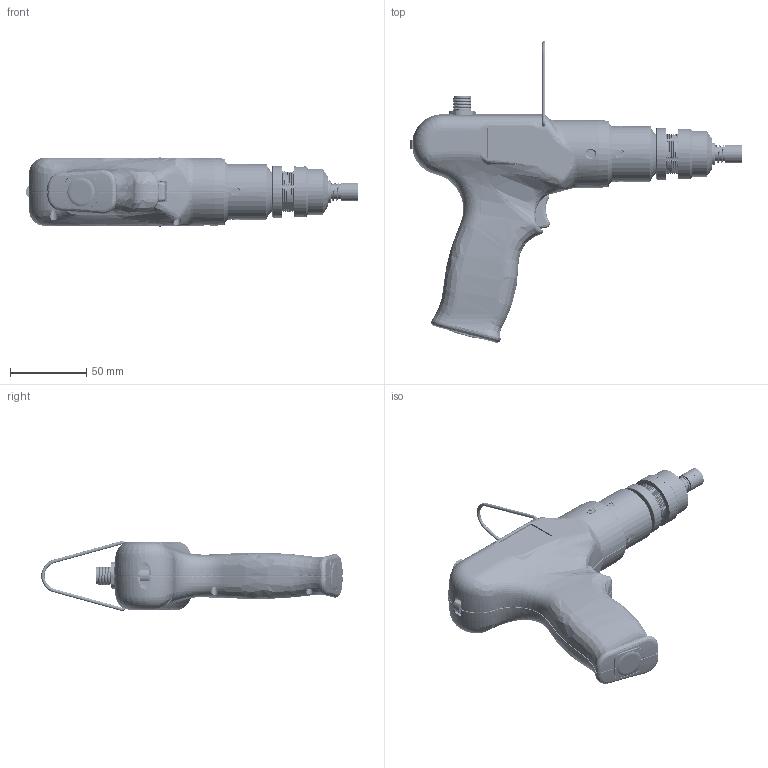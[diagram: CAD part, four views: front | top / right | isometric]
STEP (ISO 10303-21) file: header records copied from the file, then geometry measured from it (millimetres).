
FILE_DESCRIPTION (( 'STEP AP214' ), '1' );
FILE_NAME ('RAFxx_PP_U.STEP', '2018-04-20T07:46:30', ( '' ), ( '' ), 'SwSTEP 2.0', 'SolidWorks 2017', '' );
FILE_SCHEMA (( 'AUTOMOTIVE_DESIGN' ));
Length unit declared in the file: millimetre
Products named in the file (1): RAFxx_PP_U
Bounding box: 218.26 x 198.2 x 45.94 mm (x, y, z)
Surface area: 142790.4 mm2 (no closed solid volume)
Topology: 0 solids, 88 shells, 4127 faces, 10850 edges, 6875 vertices
Faces by surface type: cylinder 1467, plane 1013, bspline 759, cone 674, torus 130, sphere 84
Entity records: 355988 total; most frequent: CARTESIAN_POINT 218151, ORIENTED_EDGE 21150, DIRECTION 16470, EDGE_CURVE 10578, VERTEX_POINT 6731, AXIS2_PLACEMENT_3D 6328, EDGE_LOOP 4378, UNCERTAINTY_MEASURE_WITH_UNIT 4212
